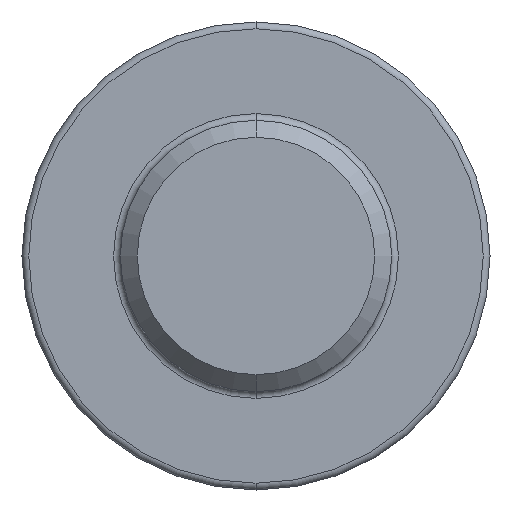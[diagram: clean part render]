
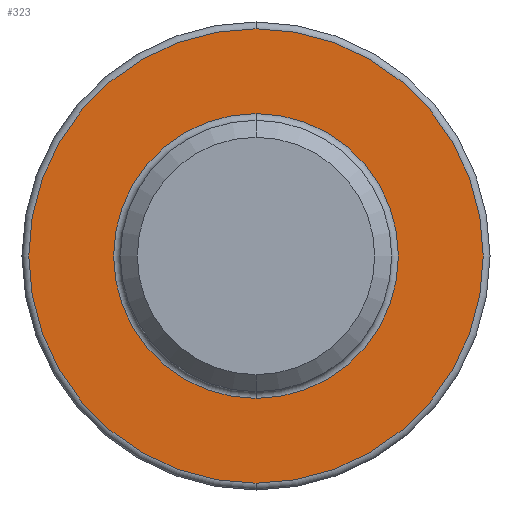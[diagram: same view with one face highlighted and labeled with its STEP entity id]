
A CAD part, front view. The second image highlights one B-rep face of the part: STEP entity #323.
In plain terms, the highlighted planar face has unit normal (0, -1, 0).
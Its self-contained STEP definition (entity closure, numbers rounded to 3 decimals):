
#7 = ORIENTED_EDGE ( 'NONE', *, *, #190, .T. ) ;
#8 = EDGE_CURVE ( 'NONE', #620, #634, #412, .T. ) ;
#27 = VERTEX_POINT ( 'NONE', #37 ) ;
#37 = CARTESIAN_POINT ( 'NONE',  ( 0., -4.2, -6.7 ) ) ;
#49 = DIRECTION ( 'NONE',  ( 0., 0., 1. ) ) ;
#57 = FACE_BOUND ( 'NONE', #801, .T. ) ;
#100 = ORIENTED_EDGE ( 'NONE', *, *, #780, .T. ) ;
#102 = CIRCLE ( 'NONE', #548, 6.7 ) ;
#108 = FACE_OUTER_BOUND ( 'NONE', #734, .T. ) ;
#171 = AXIS2_PLACEMENT_3D ( 'NONE', #182, #496, #360 ) ;
#182 = CARTESIAN_POINT ( 'NONE',  ( 0., -4.2, 0. ) ) ;
#190 = EDGE_CURVE ( 'NONE', #634, #620, #424, .T. ) ;
#228 = CARTESIAN_POINT ( 'NONE',  ( 0., -4.2, 0. ) ) ;
#232 = CARTESIAN_POINT ( 'NONE',  ( 0., -4.2, 0. ) ) ;
#300 = CIRCLE ( 'NONE', #171, 6.7 ) ;
#323 = ADVANCED_FACE ( 'NONE', ( #57, #108 ), #572, .F. ) ;
#350 = DIRECTION ( 'NONE',  ( 0., 0., 1. ) ) ;
#360 = DIRECTION ( 'NONE',  ( 0., 0., 1. ) ) ;
#365 = DIRECTION ( 'NONE',  ( 0., 1., 0. ) ) ;
#388 = VERTEX_POINT ( 'NONE', #696 ) ;
#412 = CIRCLE ( 'NONE', #699, 4.2 ) ;
#424 = CIRCLE ( 'NONE', #605, 4.2 ) ;
#434 = DIRECTION ( 'NONE',  ( 0., 0., 1. ) ) ;
#448 = CARTESIAN_POINT ( 'NONE',  ( 0., -4.2, 0. ) ) ;
#496 = DIRECTION ( 'NONE',  ( 0., -1., 0. ) ) ;
#548 = AXIS2_PLACEMENT_3D ( 'NONE', #232, #563, #434 ) ;
#563 = DIRECTION ( 'NONE',  ( 0., -1., 0. ) ) ;
#572 = PLANE ( 'NONE',  #578 ) ;
#578 = AXIS2_PLACEMENT_3D ( 'NONE', #848, #647, #49 ) ;
#605 = AXIS2_PLACEMENT_3D ( 'NONE', #228, #619, #350 ) ;
#619 = DIRECTION ( 'NONE',  ( 0., 1., 0. ) ) ;
#620 = VERTEX_POINT ( 'NONE', #824 ) ;
#634 = VERTEX_POINT ( 'NONE', #676 ) ;
#642 = DIRECTION ( 'NONE',  ( 0., 0., 1. ) ) ;
#647 = DIRECTION ( 'NONE',  ( 0., 1., 0. ) ) ;
#676 = CARTESIAN_POINT ( 'NONE',  ( 0., -4.2, 4.2 ) ) ;
#696 = CARTESIAN_POINT ( 'NONE',  ( 0., -4.2, 6.7 ) ) ;
#699 = AXIS2_PLACEMENT_3D ( 'NONE', #448, #365, #642 ) ;
#711 = ORIENTED_EDGE ( 'NONE', *, *, #8, .T. ) ;
#734 = EDGE_LOOP ( 'NONE', ( #100, #835 ) ) ;
#772 = EDGE_CURVE ( 'NONE', #27, #388, #102, .T. ) ;
#780 = EDGE_CURVE ( 'NONE', #388, #27, #300, .T. ) ;
#801 = EDGE_LOOP ( 'NONE', ( #7, #711 ) ) ;
#824 = CARTESIAN_POINT ( 'NONE',  ( 0., -4.2, -4.2 ) ) ;
#835 = ORIENTED_EDGE ( 'NONE', *, *, #772, .T. ) ;
#848 = CARTESIAN_POINT ( 'NONE',  ( 4., -4.2, 0. ) ) ;
